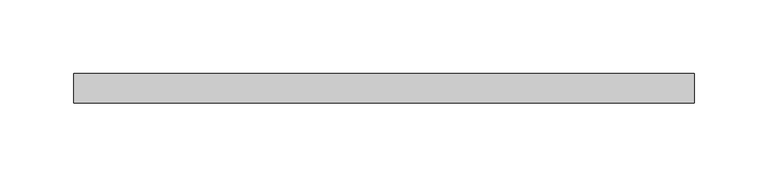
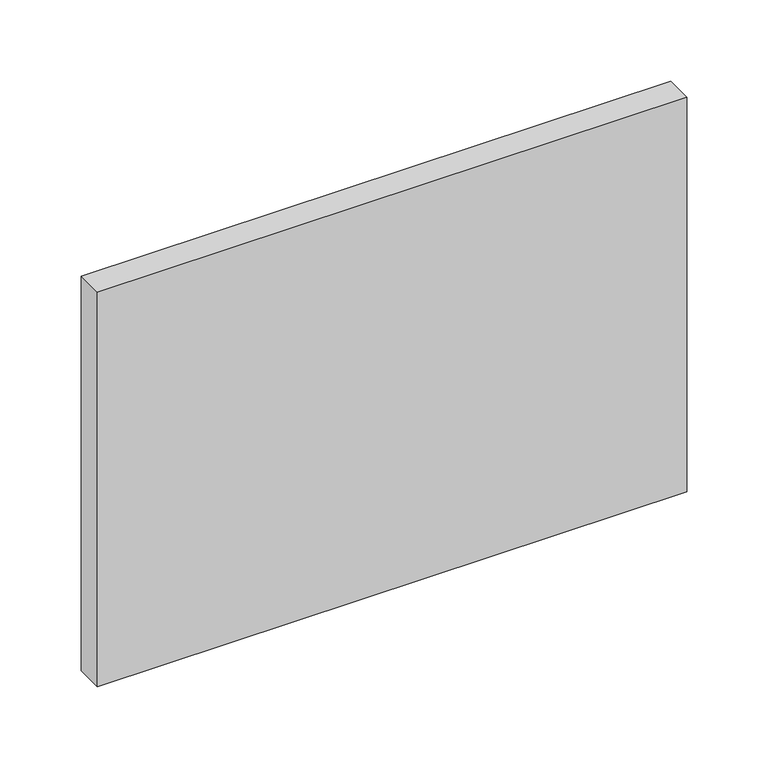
"""IFC4 building model written with IfcOpenShell, lengths in millimetres: proxy geometry, Utrymningsplan : Utrymningsplan."""

from ifc_helpers import new_model, si_unit, frame, origin, place, context, project, spatial, polyline, outline, extrude, source, transform, mapped, element, save


def specialty_equipment_be230158(model_context):
    return source(origin(), model_context, "Body", "SweptSolid", [
        extrude(outline(polyline([(210.0, -20.0), (-210.0, -20.0), (-210.0, 0.0), (210.0, 0.0), (210.0, -20.0)])), frame((0.0, 0.0, 1200.0), z_axis=(0.0, 0.0, 1.0), x_axis=(1.0, 0.0, 0.0)), (0.0, 0.0, 1.0), 297.0),
    ])


if __name__ == "__main__":
    model = new_model("IFC4")
    model_context = context("Model", 3, world=origin())
    ifc_project = project(units=[si_unit("LENGTHUNIT", "METRE", prefix="MILLI")], contexts=[model_context])
    site = spatial("IfcSite", under=ifc_project)
    building = spatial("IfcBuilding", under=site)
    placement = place(None, origin())
    specialty_equipment_shape = specialty_equipment_be230158(model_context)
    element("IfcBuildingElementProxy", 1, Name="Utrymningsplan : Utrymningsplan", ObjectType="Utrymningsplan : Utrymningsplan", at=placement, inside=building, context=model_context, shape_type="MappedRepresentation", body=[
        mapped(specialty_equipment_shape, transform((0.0, 0.0, 0.0), x_axis=(1.0, 0.0, 0.0), y_axis=(0.0, 1.0, 0.0), z_axis=(0.0, 0.0, 1.0))),
    ])
    save(model, "model.ifc")
